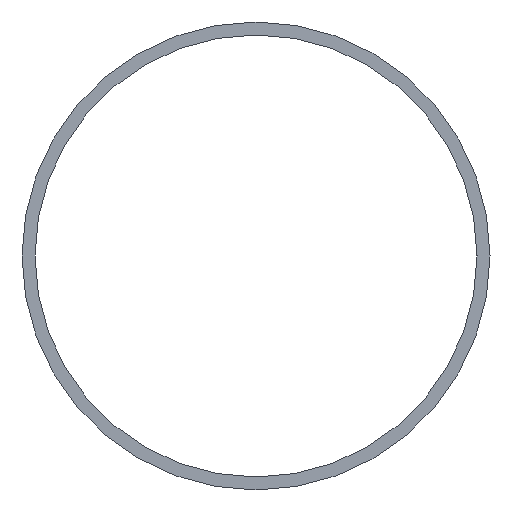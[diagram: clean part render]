
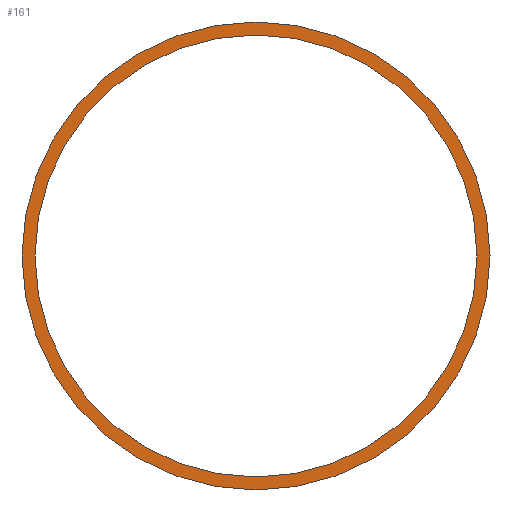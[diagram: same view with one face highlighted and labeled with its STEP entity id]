
A CAD part, left-side view. The second image highlights one B-rep face of the part: STEP entity #161.
In plain terms, the highlighted planar face has unit normal (-1, 0, 0).
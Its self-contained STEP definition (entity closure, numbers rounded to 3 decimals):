
#1 = EDGE_CURVE ( 'NONE', #65, #89, #70, .T. ) ;
#2 = CARTESIAN_POINT ( 'NONE',  ( -3000., 25.5, 0. ) ) ;
#9 = CARTESIAN_POINT ( 'NONE',  ( -3000., -27., 0. ) ) ;
#14 = ORIENTED_EDGE ( 'NONE', *, *, #218, .F. ) ;
#15 = CARTESIAN_POINT ( 'NONE',  ( -3000., 27., 0. ) ) ;
#35 = CARTESIAN_POINT ( 'NONE',  ( -3000., 0., 0. ) ) ;
#39 = EDGE_CURVE ( 'NONE', #243, #270, #102, .T. ) ;
#65 = VERTEX_POINT ( 'NONE', #180 ) ;
#67 = DIRECTION ( 'NONE',  ( 1., 0., 0. ) ) ;
#70 = CIRCLE ( 'NONE', #236, 25.5 ) ;
#75 = DIRECTION ( 'NONE',  ( 1., 0., 0. ) ) ;
#89 = VERTEX_POINT ( 'NONE', #2 ) ;
#102 = CIRCLE ( 'NONE', #116, 27. ) ;
#104 = EDGE_LOOP ( 'NONE', ( #153, #107 ) ) ;
#107 = ORIENTED_EDGE ( 'NONE', *, *, #39, .F. ) ;
#115 = CARTESIAN_POINT ( 'NONE',  ( -3000., 0., 0. ) ) ;
#116 = AXIS2_PLACEMENT_3D ( 'NONE', #35, #67, #173 ) ;
#117 = DIRECTION ( 'NONE',  ( 0., 1., 0. ) ) ;
#118 = FACE_BOUND ( 'NONE', #241, .T. ) ;
#119 = DIRECTION ( 'NONE',  ( -1., 0., 0. ) ) ;
#129 = DIRECTION ( 'NONE',  ( -1., 0., 0. ) ) ;
#153 = ORIENTED_EDGE ( 'NONE', *, *, #234, .F. ) ;
#161 = ADVANCED_FACE ( 'NONE', ( #118, #256 ), #186, .F. ) ;
#163 = CIRCLE ( 'NONE', #208, 25.5 ) ;
#164 = DIRECTION ( 'NONE',  ( 1., 0., 0. ) ) ;
#173 = DIRECTION ( 'NONE',  ( 0., 1., 0. ) ) ;
#180 = CARTESIAN_POINT ( 'NONE',  ( -3000., -25.5, 0. ) ) ;
#185 = AXIS2_PLACEMENT_3D ( 'NONE', #115, #164, #117 ) ;
#186 = PLANE ( 'NONE',  #185 ) ;
#191 = CIRCLE ( 'NONE', #298, 27. ) ;
#192 = CARTESIAN_POINT ( 'NONE',  ( -3000., 0., 0. ) ) ;
#195 = DIRECTION ( 'NONE',  ( 0., 1., 0. ) ) ;
#196 = DIRECTION ( 'NONE',  ( 0., 1., 0. ) ) ;
#198 = ORIENTED_EDGE ( 'NONE', *, *, #1, .F. ) ;
#208 = AXIS2_PLACEMENT_3D ( 'NONE', #239, #119, #219 ) ;
#218 = EDGE_CURVE ( 'NONE', #89, #65, #163, .T. ) ;
#219 = DIRECTION ( 'NONE',  ( 0., 1., 0. ) ) ;
#234 = EDGE_CURVE ( 'NONE', #270, #243, #191, .T. ) ;
#236 = AXIS2_PLACEMENT_3D ( 'NONE', #266, #129, #196 ) ;
#239 = CARTESIAN_POINT ( 'NONE',  ( -3000., 0., 0. ) ) ;
#241 = EDGE_LOOP ( 'NONE', ( #14, #198 ) ) ;
#243 = VERTEX_POINT ( 'NONE', #9 ) ;
#256 = FACE_OUTER_BOUND ( 'NONE', #104, .T. ) ;
#266 = CARTESIAN_POINT ( 'NONE',  ( -3000., 0., 0. ) ) ;
#270 = VERTEX_POINT ( 'NONE', #15 ) ;
#298 = AXIS2_PLACEMENT_3D ( 'NONE', #192, #75, #195 ) ;
